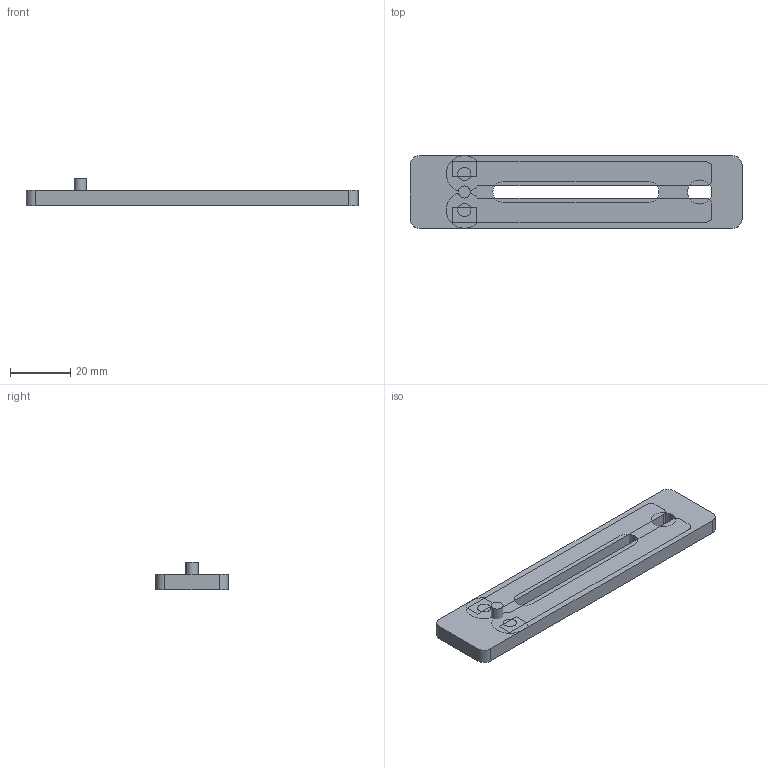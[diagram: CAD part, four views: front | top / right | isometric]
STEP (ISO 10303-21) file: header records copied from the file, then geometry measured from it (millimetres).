
FILE_DESCRIPTION(('Open CASCADE Model'),'2;1');
FILE_NAME('Open CASCADE Shape Model','2026-08-09T12:58:47',('Author'),( 'Open CASCADE'),'Open CASCADE STEP processor 7.9','Open CASCADE 7.9' ,'Unknown');
FILE_SCHEMA(('AUTOMOTIVE_DESIGN { 1 0 10303 214 1 1 1 1 }'));
Length unit declared in the file: millimetre
Products named in the file (7): Open CASCADE STEP translator 7.9 1; Open CASCADE STEP translator 7.9 1.1; Open CASCADE STEP translator 7.9 1.2; Open CASCADE STEP translator 7.9 1.3; Open CASCADE STEP translator 7.9 1.4; Open CASCADE STEP translator 7.9 1.5; Open CASCADE STEP translator 7.9 1.6
Assembly tree (6 placements, depth 2):
  Open CASCADE STEP translator 7.9 1
    Open CASCADE STEP translator 7.9 1.1
    Open CASCADE STEP translator 7.9 1.2
    Open CASCADE STEP translator 7.9 1.3
    Open CASCADE STEP translator 7.9 1.4
    Open CASCADE STEP translator 7.9 1.5
    Open CASCADE STEP translator 7.9 1.6
Bounding box: 110 x 24 x 9 mm (x, y, z)
Volume: 18630.9 mm3; surface area: 11876.3 mm2
Topology: 6 solids, 6 shells, 48 faces, 108 edges, 72 vertices
Faces by surface type: plane 32, cylinder 16
Full cylindrical faces by diameter (mm): 4 x1, 4.4 x2, 8 x1
Entity records: 2900 total; most frequent: CARTESIAN_POINT 531, DIRECTION 446, LINE 252, VECTOR 252, ORIENTED_EDGE 216, PCURVE 216, DEFINITIONAL_REPRESENTATION 216, EDGE_CURVE 108
